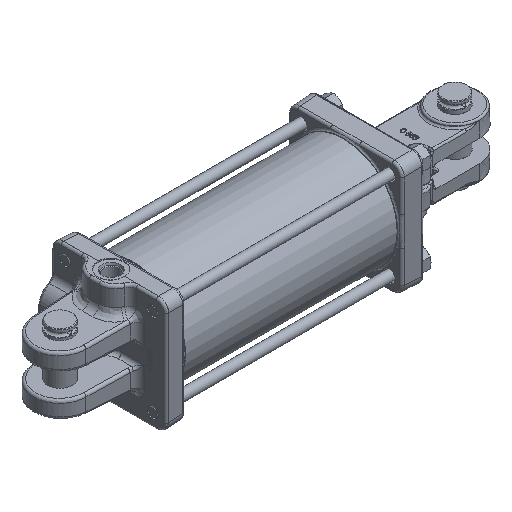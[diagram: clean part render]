
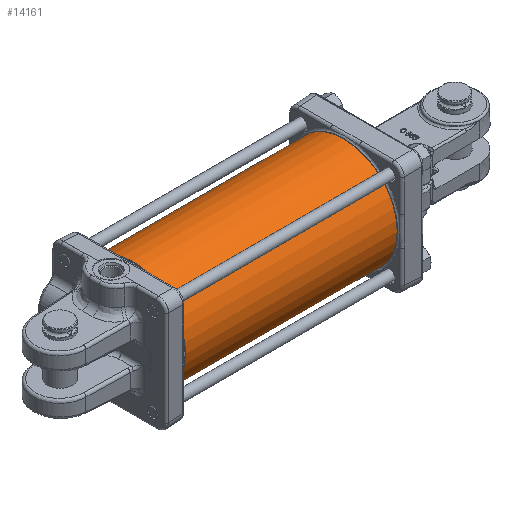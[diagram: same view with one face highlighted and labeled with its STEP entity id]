
A CAD part, isometric view. The second image highlights one B-rep face of the part: STEP entity #14161.
In plain terms, the highlighted cylindrical face has radius 69.85 mm (diameter 139.7 mm), a full revolution.
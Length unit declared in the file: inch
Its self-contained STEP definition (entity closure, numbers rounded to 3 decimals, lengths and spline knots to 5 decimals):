
#3470=CYLINDRICAL_SURFACE($,#15363,2.75);
#3719=FACE_BOUND($,#5338,.T.);
#4289=FACE_OUTER_BOUND($,#5337,.T.);
#5337=EDGE_LOOP($,(#11834));
#5338=EDGE_LOOP($,(#11835));
#6094=CIRCLE($,#15362,2.75);
#6095=CIRCLE($,#15364,2.75);
#7043=VERTEX_POINT($,#26070);
#7044=VERTEX_POINT($,#26073);
#8716=EDGE_CURVE($,#7043,#7043,#6094,.T.);
#8717=EDGE_CURVE($,#7044,#7044,#6095,.T.);
#11834=ORIENTED_EDGE($,*,*,#8717,.F.);
#11835=ORIENTED_EDGE($,*,*,#8716,.F.);
#14161=ADVANCED_FACE($,(#4289,#3719),#3470,.T.);
#15362=AXIS2_PLACEMENT_3D($,#26071,#17915,#17916);
#15363=AXIS2_PLACEMENT_3D($,#26072,#17917,#17918);
#15364=AXIS2_PLACEMENT_3D($,#26074,#17919,#17920);
#17915=DIRECTION('center_axis',(-1.,0.,0.));
#17916=DIRECTION('ref_axis',(0.,-1.,0.));
#17917=DIRECTION('center_axis',(1.,0.,0.));
#17918=DIRECTION('ref_axis',(0.,-1.,0.));
#17919=DIRECTION('center_axis',(1.,0.,0.));
#17920=DIRECTION('ref_axis',(0.,-1.,0.));
#26070=CARTESIAN_POINT('',(0.01,2.75,0.));
#26071=CARTESIAN_POINT('Origin',(0.01,0.,0.));
#26072=CARTESIAN_POINT('Origin',(0.,0.,0.));
#26073=CARTESIAN_POINT('',(10.865,2.75,0.));
#26074=CARTESIAN_POINT('Origin',(10.865,0.,0.));
